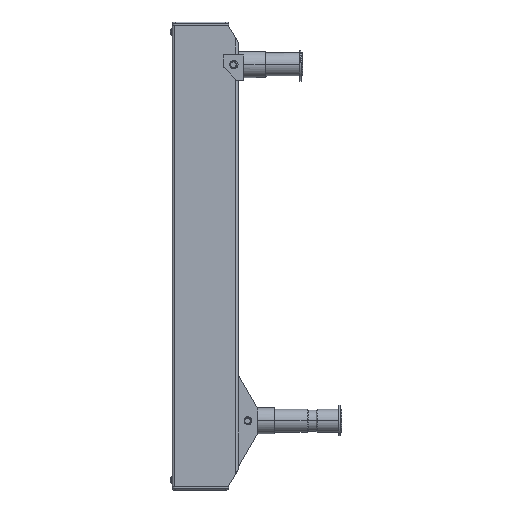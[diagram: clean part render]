
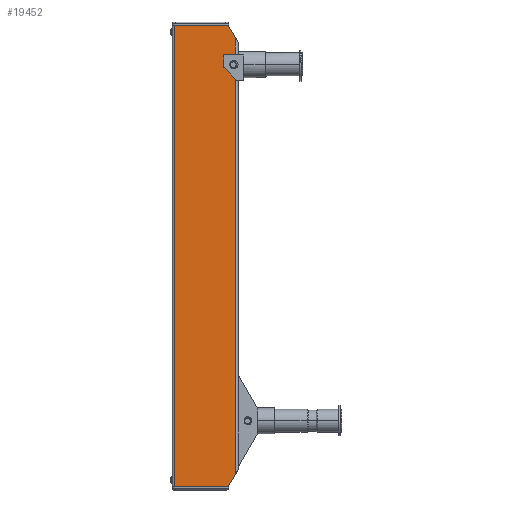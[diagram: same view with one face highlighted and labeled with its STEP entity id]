
A CAD part, left-side view. The second image highlights one B-rep face of the part: STEP entity #19452.
In plain terms, the highlighted planar face has unit normal (-1, 0, 0).
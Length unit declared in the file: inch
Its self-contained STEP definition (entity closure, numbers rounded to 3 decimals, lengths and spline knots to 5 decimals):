
#560 = DIRECTION ( 'NONE',  ( 0., -0.5, -0.866 ) ) ;
#1257 = VERTEX_POINT ( 'NONE', #21876 ) ;
#1980 = CARTESIAN_POINT ( 'NONE',  ( 0., 0.375, 8.75 ) ) ;
#2007 = DIRECTION ( 'NONE',  ( 0., 0.5, -0.866 ) ) ;
#4082 = CARTESIAN_POINT ( 'NONE',  ( 0., 2.4, -8.75 ) ) ;
#5544 = DIRECTION ( 'NONE',  ( -1., 0., 0. ) ) ;
#5774 = ORIENTED_EDGE ( 'NONE', *, *, #22517, .T. ) ;
#6337 = DIRECTION ( 'NONE',  ( 0., 0., 1. ) ) ;
#6776 = ORIENTED_EDGE ( 'NONE', *, *, #42891, .T. ) ;
#6930 = CARTESIAN_POINT ( 'NONE',  ( 0., 0.12085, 7.125 ) ) ;
#7101 = EDGE_CURVE ( 'NONE', #10209, #56692, #13349, .T. ) ;
#7449 = LINE ( 'NONE', #25166, #24409 ) ;
#7466 = ORIENTED_EDGE ( 'NONE', *, *, #57647, .F. ) ;
#7488 = ORIENTED_EDGE ( 'NONE', *, *, #44124, .F. ) ;
#8481 = ORIENTED_EDGE ( 'NONE', *, *, #7101, .T. ) ;
#9040 = DIRECTION ( 'NONE',  ( 0., -1., 0. ) ) ;
#9624 = CARTESIAN_POINT ( 'NONE',  ( 0., 0.1, 7.375 ) ) ;
#9926 = EDGE_CURVE ( 'NONE', #19196, #41083, #53982, .T. ) ;
#10209 = VERTEX_POINT ( 'NONE', #36986 ) ;
#10630 = CARTESIAN_POINT ( 'NONE',  ( 0., 0.1, 7.125 ) ) ;
#10901 = CARTESIAN_POINT ( 'NONE',  ( 0., 0.12085, 7.125 ) ) ;
#11020 = DIRECTION ( 'NONE',  ( 1., 0., 0. ) ) ;
#11797 = CARTESIAN_POINT ( 'NONE',  ( 0., 2.4, 8.75 ) ) ;
#13349 = LINE ( 'NONE', #37580, #51807 ) ;
#14308 = ORIENTED_EDGE ( 'NONE', *, *, #25619, .T. ) ;
#15379 = VECTOR ( 'NONE', #30907, 39.37008 ) ;
#15433 = LINE ( 'NONE', #19476, #38435 ) ;
#16244 = LINE ( 'NONE', #39855, #31187 ) ;
#16281 = CARTESIAN_POINT ( 'NONE',  ( 0., 0.185, 7.25 ) ) ;
#16436 = DIRECTION ( 'NONE',  ( 0., 0., 1. ) ) ;
#17729 = CARTESIAN_POINT ( 'NONE',  ( 0., 0.185, 7.3905 ) ) ;
#18915 = VERTEX_POINT ( 'NONE', #1980 ) ;
#19196 = VERTEX_POINT ( 'NONE', #17729 ) ;
#19333 = AXIS2_PLACEMENT_3D ( 'NONE', #61254, #37645, #55974 ) ;
#19452 = ADVANCED_FACE ( 'NONE', ( #38464 ), #51272, .T. ) ;
#19476 = CARTESIAN_POINT ( 'NONE',  ( 0., -0.06488, 7.375 ) ) ;
#20046 = ORIENTED_EDGE ( 'NONE', *, *, #9926, .T. ) ;
#20705 = VERTEX_POINT ( 'NONE', #10901 ) ;
#20860 = VERTEX_POINT ( 'NONE', #49089 ) ;
#21199 = CARTESIAN_POINT ( 'NONE',  ( 0., 2.4, -8.75 ) ) ;
#21876 = CARTESIAN_POINT ( 'NONE',  ( 0., 0.1, 8.27369 ) ) ;
#22234 = VECTOR ( 'NONE', #16436, 39.37008 ) ;
#22517 = EDGE_CURVE ( 'NONE', #38712, #20705, #34280, .T. ) ;
#24409 = VECTOR ( 'NONE', #25468, 39.37008 ) ;
#25166 = CARTESIAN_POINT ( 'NONE',  ( 0., 0.1, -8.75 ) ) ;
#25468 = DIRECTION ( 'NONE',  ( 0., 0., 1. ) ) ;
#25619 = EDGE_CURVE ( 'NONE', #27707, #1257, #7449, .T. ) ;
#25651 = CARTESIAN_POINT ( 'NONE',  ( 0., 2.4, 8.75 ) ) ;
#25851 = DIRECTION ( 'NONE',  ( 0., 1., 0. ) ) ;
#26830 = CARTESIAN_POINT ( 'NONE',  ( 0., 0.375, -8.75 ) ) ;
#27707 = VERTEX_POINT ( 'NONE', #9624 ) ;
#28181 = CIRCLE ( 'NONE', #60932, 0.1405 ) ;
#28698 = EDGE_CURVE ( 'NONE', #41083, #27707, #15433, .T. ) ;
#28762 = AXIS2_PLACEMENT_3D ( 'NONE', #4082, #5544, #9040 ) ;
#28978 = EDGE_CURVE ( 'NONE', #33958, #18915, #30010, .T. ) ;
#30010 = LINE ( 'NONE', #25651, #15379 ) ;
#30249 = DIRECTION ( 'NONE',  ( 0., 0., -1. ) ) ;
#30559 = VECTOR ( 'NONE', #560, 39.37008 ) ;
#30907 = DIRECTION ( 'NONE',  ( 0., -1., 0. ) ) ;
#31187 = VECTOR ( 'NONE', #2007, 39.37008 ) ;
#32304 = CARTESIAN_POINT ( 'NONE',  ( 0., 0.12085, 7.375 ) ) ;
#32700 = ORIENTED_EDGE ( 'NONE', *, *, #44510, .T. ) ;
#33958 = VERTEX_POINT ( 'NONE', #11797 ) ;
#34272 = VECTOR ( 'NONE', #25851, 39.37008 ) ;
#34280 = LINE ( 'NONE', #6930, #34272 ) ;
#35528 = ORIENTED_EDGE ( 'NONE', *, *, #43626, .T. ) ;
#35833 = ORIENTED_EDGE ( 'NONE', *, *, #49049, .F. ) ;
#36676 = DIRECTION ( 'NONE',  ( 0., 0., -1. ) ) ;
#36986 = CARTESIAN_POINT ( 'NONE',  ( 0., 2.4, -8.75 ) ) ;
#37580 = CARTESIAN_POINT ( 'NONE',  ( 0., 2.4, -8.75 ) ) ;
#37645 = DIRECTION ( 'NONE',  ( 1., 0., 0. ) ) ;
#38435 = VECTOR ( 'NONE', #44006, 39.37008 ) ;
#38464 = FACE_OUTER_BOUND ( 'NONE', #50735, .T. ) ;
#38712 = VERTEX_POINT ( 'NONE', #10630 ) ;
#39855 = CARTESIAN_POINT ( 'NONE',  ( 0., 0.375, -8.75 ) ) ;
#41083 = VERTEX_POINT ( 'NONE', #32304 ) ;
#42891 = EDGE_CURVE ( 'NONE', #20860, #19196, #28181, .T. ) ;
#43069 = LINE ( 'NONE', #59715, #30559 ) ;
#43626 = EDGE_CURVE ( 'NONE', #60192, #38712, #48769, .T. ) ;
#43909 = LINE ( 'NONE', #21199, #60158 ) ;
#44006 = DIRECTION ( 'NONE',  ( 0., -1., 0. ) ) ;
#44124 = EDGE_CURVE ( 'NONE', #60192, #56692, #16244, .T. ) ;
#44510 = EDGE_CURVE ( 'NONE', #20705, #20860, #53052, .T. ) ;
#45808 = ORIENTED_EDGE ( 'NONE', *, *, #28698, .T. ) ;
#48769 = LINE ( 'NONE', #58691, #22234 ) ;
#49049 = EDGE_CURVE ( 'NONE', #10209, #33958, #43909, .T. ) ;
#49089 = CARTESIAN_POINT ( 'NONE',  ( 0., 0.185, 7.1095 ) ) ;
#50735 = EDGE_LOOP ( 'NONE', ( #5774, #32700, #6776, #20046, #45808, #14308, #7466, #56008, #35833, #8481, #7488, #35528 ) ) ;
#51253 = CARTESIAN_POINT ( 'NONE',  ( 0., 0.1, -8.27369 ) ) ;
#51272 = PLANE ( 'NONE',  #28762 ) ;
#51807 = VECTOR ( 'NONE', #60876, 39.37008 ) ;
#53052 = CIRCLE ( 'NONE', #19333, 0.1405 ) ;
#53982 = CIRCLE ( 'NONE', #56946, 0.1405 ) ;
#55942 = DIRECTION ( 'NONE',  ( 1., 0., 0. ) ) ;
#55974 = DIRECTION ( 'NONE',  ( 0., 0., -1. ) ) ;
#56008 = ORIENTED_EDGE ( 'NONE', *, *, #28978, .F. ) ;
#56692 = VERTEX_POINT ( 'NONE', #26830 ) ;
#56946 = AXIS2_PLACEMENT_3D ( 'NONE', #60595, #55942, #36676 ) ;
#57647 = EDGE_CURVE ( 'NONE', #18915, #1257, #43069, .T. ) ;
#58691 = CARTESIAN_POINT ( 'NONE',  ( 0., 0.1, -8.75 ) ) ;
#59715 = CARTESIAN_POINT ( 'NONE',  ( 0., 0.375, 8.75 ) ) ;
#60158 = VECTOR ( 'NONE', #6337, 39.37008 ) ;
#60192 = VERTEX_POINT ( 'NONE', #51253 ) ;
#60595 = CARTESIAN_POINT ( 'NONE',  ( 0., 0.185, 7.25 ) ) ;
#60876 = DIRECTION ( 'NONE',  ( 0., -1., 0. ) ) ;
#60932 = AXIS2_PLACEMENT_3D ( 'NONE', #16281, #11020, #30249 ) ;
#61254 = CARTESIAN_POINT ( 'NONE',  ( 0., 0.185, 7.25 ) ) ;
